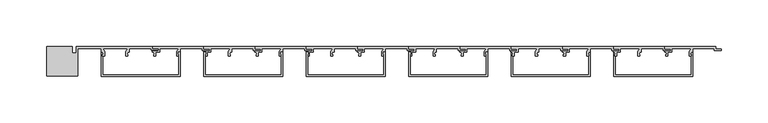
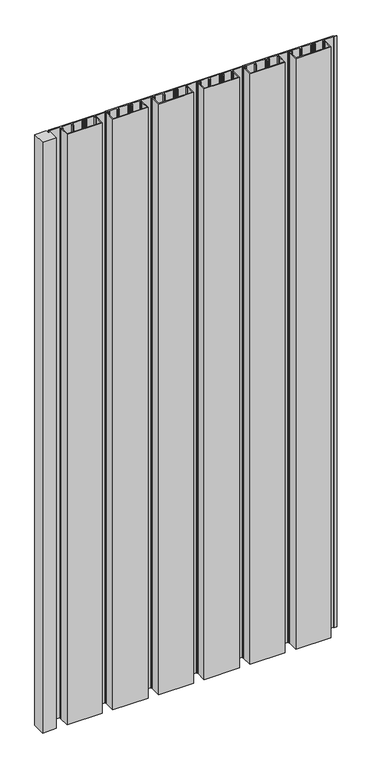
"""IFC4 building model written with IfcOpenShell, lengths in millimetres: proxy geometry, A_GEN_LINE_Small Base_Wide Cap_Corner Angle : A_GEN_LINE_Small Base_Wide Cap_Corner Angle."""

from ifc_helpers import new_model, si_unit, origin, origin_with_axes, place, context, project, spatial, polyline, outline, extrude, source, transform, mapped, element, save


def generic_models_3f512c65(model_context):
    return source(origin(), model_context, "Body", "SweptSolid", [
        extrude(outline(polyline([(645.7694655, 0.0), (700.3423599, 0.0), (700.3423599, -2.85), (706.3423599, -2.85), (706.3423599, -4.2), (698.8240048, -4.2), (698.8240048, -2.4), (675.3544373, -2.4), (675.3544373, -6.1021884), (674.2394639, -6.1021884), (672.6508981, -8.4994005), (673.912832, -8.4994005), (673.912832, -10.4818695), (671.7103059, -10.4818695), (671.7103059, -5.6343123), (673.8094271, -2.4), (652.9890181, -2.4), (652.9890181, -6.1), (648.9985687, -6.1), (648.9985687, -10.4818695), (646.7960427, -10.4818695), (646.7960427, -8.4994005), (648.0579766, -8.4994005), (646.4694108, -6.1021884), (645.3832253, -6.1021884), (645.3832253, -4.9), (651.7890181, -4.9), (651.7890181, -2.7), (645.7694655, -2.7), (645.7694655, 0.0)])), origin_with_axes(), (0.0, 0.0, 1.0), 1500.0),
        extrude(outline(polyline([(590.8103309, 0.0), (645.3832253, 0.0), (645.3832253, -2.85), (651.3832253, -2.85), (651.3832253, -4.2), (643.8648702, -4.2), (643.8648702, -2.4), (620.3953027, -2.4), (620.3953027, -6.1021884), (619.2803293, -6.1021884), (617.6917635, -8.4994005), (618.9536974, -8.4994005), (618.9536974, -10.4818695), (616.7511713, -10.4818695), (616.7511713, -5.6343123), (618.8502925, -2.4), (598.0298835, -2.4), (598.0298835, -6.1), (594.0394341, -6.1), (594.0394341, -10.4818695), (591.8369081, -10.4818695), (591.8369081, -8.4994005), (593.098842, -8.4994005), (591.5102762, -6.1021884), (590.4240907, -6.1021884), (590.4240907, -4.9), (596.8298835, -4.9), (596.8298835, -2.7), (590.8103309, -2.7), (590.8103309, 0.0)])), origin_with_axes(), (0.0, 0.0, 1.0), 1500.0),
        extrude(outline(polyline([(535.8511963, 0.0), (590.4240907, 0.0), (590.4240907, -2.85), (596.4240907, -2.85), (596.4240907, -4.2), (588.9057356, -4.2), (588.9057356, -2.4), (565.4361681, -2.4), (565.4361681, -6.1021884), (564.3211947, -6.1021884), (562.7326289, -8.4994005), (563.9945628, -8.4994005), (563.9945628, -10.4818695), (561.7920367, -10.4818695), (561.7920367, -5.6343123), (563.8911579, -2.4), (543.0707489, -2.4), (543.0707489, -6.1), (539.0802995, -6.1), (539.0802995, -10.4818695), (536.8777735, -10.4818695), (536.8777735, -8.4994005), (538.1397074, -8.4994005), (536.5511416, -6.1021884), (535.4649561, -6.1021884), (535.4649561, -4.9), (541.8707489, -4.9), (541.8707489, -2.7), (535.8511963, -2.7), (535.8511963, 0.0)])), origin_with_axes(), (0.0, 0.0, 1.0), 1500.0),
        extrude(outline(polyline([(480.8920617, 0.0), (535.4649561, 0.0), (535.4649561, -2.85), (541.4649561, -2.85), (541.4649561, -4.2), (533.946601, -4.2), (533.946601, -2.4), (510.4770335, -2.4), (510.4770335, -6.1021884), (509.3620601, -6.1021884), (507.7734943, -8.4994005), (509.0354282, -8.4994005), (509.0354282, -10.4818695), (506.8329021, -10.4818695), (506.8329021, -5.6343123), (508.9320233, -2.4), (488.1116143, -2.4), (488.1116143, -6.1), (484.1211649, -6.1), (484.1211649, -10.4818695), (481.9186389, -10.4818695), (481.9186389, -8.4994005), (483.1805728, -8.4994005), (481.592007, -6.1021884), (480.5058215, -6.1021884), (480.5058215, -4.9), (486.9116143, -4.9), (486.9116143, -2.7), (480.8920617, -2.7), (480.8920617, 0.0)])), origin_with_axes(), (0.0, 0.0, 1.0), 1500.0),
        extrude(outline(polyline([(9.6853961, 0.0), (9.6853961, -7.0005407), (14.0816796, -7.0005407), (14.0816796, 0.0), (95.7918793, 0.0), (95.7918793, -2.825696), (101.7918793, -2.825696), (101.7918793, -4.175696), (94.2735242, -4.175696), (94.2735242, -2.4), (70.7697169, -2.4), (70.7697169, -6.1021884), (69.6547434, -6.1021884), (68.0661776, -8.4994005), (69.3281115, -8.4994005), (69.3281115, -10.4818695), (67.1255855, -10.4818695), (67.1588687, -5.5238337), (69.2289465, -2.4), (42.3147271, -2.4), (44.3848049, -5.5238337), (44.4180882, -10.4818695), (42.2155621, -10.4818695), (42.2155621, -8.4994005), (43.477496, -8.4994005), (41.8889302, -6.1021884), (40.7739568, -6.1021884), (40.7739568, -2.4), (15.4816796, -2.4), (15.4816796, -31.9534606), (-17.7610639, -31.9534606), (-17.7610639, 0.0), (9.6853961, 0.0)])), origin_with_axes(), (0.0, 0.0, 1.0), 1500.0),
        extrude(outline(polyline([(590.9335988, -32.2007192), (590.9335988, -6.1), (593.0826057, -6.1), (593.0826057, -8.3419727), (592.3335988, -8.5826662), (592.3335988, -30.8007192), (674.1566132, -30.8007192), (674.1566132, -8.5826662), (673.4076063, -8.3419727), (673.4076063, -6.1), (675.5566132, -6.1), (675.5566132, -32.2007192), (590.9335988, -32.2007192)])), origin_with_axes(), (0.0, 0.0, 1.0), 1500.0),
        extrude(outline(polyline([(480.9382824, -32.2007192), (480.9382824, -6.1), (483.0872893, -6.1), (483.0872893, -8.3419727), (482.3382824, -8.5826662), (482.3382824, -30.8007192), (564.1612968, -30.8007192), (564.1612968, -8.5826662), (563.4122899, -8.3419727), (563.4122899, -6.1), (565.5612968, -6.1), (565.5612968, -32.2007192), (480.9382824, -32.2007192)])), origin_with_axes(), (0.0, 0.0, 1.0), 1500.0),
        extrude(outline(polyline([(370.942966, -32.2007192), (370.942966, -6.1), (373.0919729, -6.1), (373.0919729, -8.3419727), (372.342966, -8.5826662), (372.342966, -30.8007192), (454.1659804, -30.8007192), (454.1659804, -8.5826662), (453.4169735, -8.3419727), (453.4169735, -6.1), (455.5659804, -6.1), (455.5659804, -32.2007192), (370.942966, -32.2007192)])), origin_with_axes(), (0.0, 0.0, 1.0), 1500.0),
        extrude(outline(polyline([(260.9476496, -32.2007192), (260.9476496, -6.1), (263.0966566, -6.1), (263.0966566, -8.3419727), (262.3476496, -8.5826662), (262.3476496, -30.8007192), (344.1706641, -30.8007192), (344.1706641, -8.5826662), (343.4216571, -8.3419727), (343.4216571, -6.1), (345.5706641, -6.1), (345.5706641, -32.2007192), (260.9476496, -32.2007192)])), origin_with_axes(), (0.0, 0.0, 1.0), 1500.0),
        extrude(outline(polyline([(150.9523332, -32.2007192), (150.9523332, -6.1), (153.1013402, -6.1), (153.1013402, -8.3419727), (152.3523332, -8.5826662), (152.3523332, -30.8007192), (234.1753477, -30.8007192), (234.1753477, -8.5826662), (233.4263407, -8.3419727), (233.4263407, -6.1), (235.5753477, -6.1), (235.5753477, -32.2007192), (150.9523332, -32.2007192)])), origin_with_axes(), (0.0, 0.0, 1.0), 1500.0),
        extrude(outline(polyline([(40.9570168, -32.2007192), (40.9570168, -6.1), (43.1060238, -6.1), (43.1060238, -8.3419727), (42.3570168, -8.5826662), (42.3570168, -30.8007192), (124.1800313, -30.8007192), (124.1800313, -8.5826662), (123.4310243, -8.3419727), (123.4310243, -6.1), (125.5800313, -6.1), (125.5800313, -32.2007192), (40.9570168, -32.2007192)])), origin_with_axes(), (0.0, 0.0, 1.0), 1500.0),
        extrude(outline(polyline([(425.9329271, 0.0), (480.5058215, 0.0), (480.5058215, -2.85), (486.5058215, -2.85), (486.5058215, -4.2), (478.9874664, -4.2), (478.9874664, -2.4), (455.5178989, -2.4), (455.5178989, -6.1021884), (454.4029255, -6.1021884), (452.8143597, -8.4994005), (454.0762936, -8.4994005), (454.0762936, -10.4818695), (451.8737675, -10.4818695), (451.8737675, -5.6343123), (453.9728887, -2.4), (433.1524797, -2.4), (433.1524797, -6.1), (429.1620303, -6.1), (429.1620303, -10.4818695), (426.9595043, -10.4818695), (426.9595043, -8.4994005), (428.2214382, -8.4994005), (426.6328724, -6.1021884), (425.5466869, -6.1021884), (425.5466869, -4.9), (431.9524797, -4.9), (431.9524797, -2.7), (425.9329271, -2.7), (425.9329271, 0.0)])), origin_with_axes(), (0.0, 0.0, 1.0), 1500.0),
        extrude(outline(polyline([(370.9737925, 0.0), (425.5466869, 0.0), (425.5466869, -2.85), (431.5466869, -2.85), (431.5466869, -4.2), (424.0283318, -4.2), (424.0283318, -2.4), (400.5587643, -2.4), (400.5587643, -6.1021884), (399.4437909, -6.1021884), (397.8552251, -8.4994005), (399.117159, -8.4994005), (399.117159, -10.4818695), (396.9146329, -10.4818695), (396.9146329, -5.6343123), (399.0137541, -2.4), (378.1933451, -2.4), (378.1933451, -6.1), (374.2028957, -6.1), (374.2028957, -10.4818695), (372.0003697, -10.4818695), (372.0003697, -8.4994005), (373.2623036, -8.4994005), (371.6737378, -6.1021884), (370.5875523, -6.1021884), (370.5875523, -4.9), (376.9933451, -4.9), (376.9933451, -2.7), (370.9737925, -2.7), (370.9737925, 0.0)])), origin_with_axes(), (0.0, 0.0, 1.0), 1500.0),
        extrude(outline(polyline([(316.0146579, 0.0), (370.5875523, 0.0), (370.5875523, -2.85), (376.5875523, -2.85), (376.5875523, -4.2), (369.0691972, -4.2), (369.0691972, -2.4), (345.5996297, -2.4), (345.5996297, -6.1021884), (344.4846563, -6.1021884), (342.8960905, -8.4994005), (344.1580244, -8.4994005), (344.1580244, -10.4818695), (341.9554984, -10.4818695), (341.9554984, -5.6343123), (344.0546195, -2.4), (323.2342105, -2.4), (323.2342105, -6.1), (319.2437611, -6.1), (319.2437611, -10.4818695), (317.0412351, -10.4818695), (317.0412351, -8.4994005), (318.303169, -8.4994005), (316.7146032, -6.1021884), (315.6284177, -6.1021884), (315.6284177, -4.9), (322.0342105, -4.9), (322.0342105, -2.7), (316.0146579, -2.7), (316.0146579, 0.0)])), origin_with_axes(), (0.0, 0.0, 1.0), 1500.0),
        extrude(outline(polyline([(261.0555233, 0.0), (315.6284177, 0.0), (315.6284177, -2.85), (321.6284177, -2.85), (321.6284177, -4.2), (314.1100626, -4.2), (314.1100626, -2.4), (290.6404952, -2.4), (290.6404952, -6.1021884), (289.5255217, -6.1021884), (287.9369559, -8.4994005), (289.1988898, -8.4994005), (289.1988898, -10.4818695), (286.9963638, -10.4818695), (286.9963638, -5.6343123), (289.0954849, -2.4), (268.2750759, -2.4), (268.2750759, -6.1), (264.2846266, -6.1), (264.2846266, -10.4818695), (262.0821005, -10.4818695), (262.0821005, -8.4994005), (263.3440344, -8.4994005), (261.7554686, -6.1021884), (260.6692831, -6.1021884), (260.6692831, -4.9), (267.0750759, -4.9), (267.0750759, -2.7), (261.0555233, -2.7), (261.0555233, 0.0)])), origin_with_axes(), (0.0, 0.0, 1.0), 1500.0),
        extrude(outline(polyline([(206.0963887, 0.0), (260.6692831, 0.0), (260.6692831, -2.85), (266.6692831, -2.85), (266.6692831, -4.2), (259.150928, -4.2), (259.150928, -2.4), (235.6813606, -2.4), (235.6813606, -6.1021884), (234.5663871, -6.1021884), (232.9778213, -8.4994005), (234.2397552, -8.4994005), (234.2397552, -10.4818695), (232.0372292, -10.4818695), (232.0372292, -5.6343123), (234.1363503, -2.4), (213.3159413, -2.4), (213.3159413, -6.1), (209.325492, -6.1), (209.325492, -10.4818695), (207.1229659, -10.4818695), (207.1229659, -8.4994005), (208.3848998, -8.4994005), (206.796334, -6.1021884), (205.7101485, -6.1021884), (205.7101485, -4.9), (212.1159413, -4.9), (212.1159413, -2.7), (206.0963887, -2.7), (206.0963887, 0.0)])), origin_with_axes(), (0.0, 0.0, 1.0), 1500.0),
        extrude(outline(polyline([(151.1372541, 0.0), (205.7101485, 0.0), (205.7101485, -2.85), (211.7101485, -2.85), (211.7101485, -4.2), (204.1917934, -4.2), (204.1917934, -2.4), (180.722226, -2.4), (180.722226, -6.1021884), (179.6072525, -6.1021884), (178.0186867, -8.4994005), (179.2806206, -8.4994005), (179.2806206, -10.4818695), (177.0780946, -10.4818695), (177.0780946, -5.6343123), (179.1772157, -2.4), (158.3568067, -2.4), (158.3568067, -6.1), (154.3663574, -6.1), (154.3663574, -10.4818695), (152.1638313, -10.4818695), (152.1638313, -8.4994005), (153.4257652, -8.4994005), (151.8371994, -6.1021884), (150.7510139, -6.1021884), (150.7510139, -4.9), (157.1568067, -4.9), (157.1568067, -2.7), (151.1372541, -2.7), (151.1372541, 0.0)])), origin_with_axes(), (0.0, 0.0, 1.0), 1500.0),
        extrude(outline(polyline([(96.1781195, 0.0), (150.7510139, 0.0), (150.7510139, -2.85), (156.7510139, -2.85), (156.7510139, -4.2), (149.2326588, -4.2), (149.2326588, -2.4), (125.7630914, -2.4), (125.7630914, -6.1021884), (124.6481179, -6.1021884), (123.0595521, -8.4994005), (124.321486, -8.4994005), (124.321486, -10.4818695), (122.11896, -10.4818695), (122.11896, -5.6343123), (124.2180811, -2.4), (103.3976722, -2.4), (103.3976722, -6.1), (99.4072228, -6.1), (99.4072228, -10.4818695), (97.2046967, -10.4818695), (97.2046967, -8.4994005), (98.4666306, -8.4994005), (96.8780648, -6.1021884), (95.7918793, -6.1021884), (95.7918793, -4.9), (102.1976722, -4.9), (102.1976722, -2.7), (96.1781195, -2.7), (96.1781195, 0.0)])), origin_with_axes(), (0.0, 0.0, 1.0), 1500.0),
    ])


if __name__ == "__main__":
    model = new_model("IFC4")
    model_context = context("Model", 3, world=origin())
    ifc_project = project(units=[si_unit("LENGTHUNIT", "METRE", prefix="MILLI")], contexts=[model_context])
    site = spatial("IfcSite", under=ifc_project)
    building = spatial("IfcBuilding", under=site)
    placement = place(None, origin())
    generic_models_shape = generic_models_3f512c65(model_context)
    element("IfcBuildingElementProxy", 1, Name="A_GEN_LINE_Small Base_Wide Cap_Corner Angle : A_GEN_LINE_Small Base_Wide Cap_Corner Angle", ObjectType="A_GEN_LINE_Small Base_Wide Cap_Corner Angle : A_GEN_LINE_Small Base_Wide Cap_Corner Angle", at=placement, inside=building, context=model_context, shape_type="MappedRepresentation", body=[
        mapped(generic_models_shape, transform((0.0, 0.0, 0.0), x_axis=(1.0, 0.0, 0.0), y_axis=(0.0, 1.0, 0.0), z_axis=(0.0, 0.0, 1.0))),
    ])
    save(model, "model.ifc")
